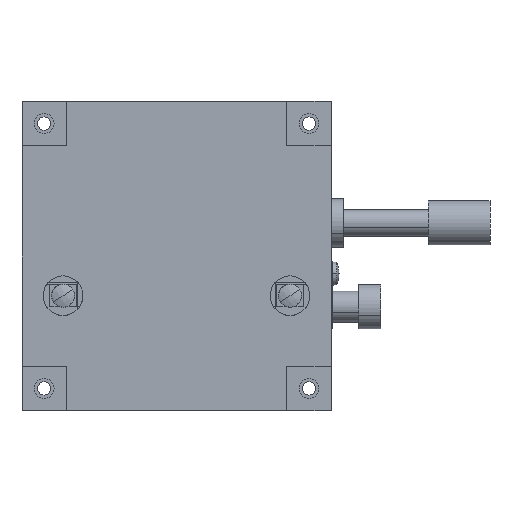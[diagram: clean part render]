
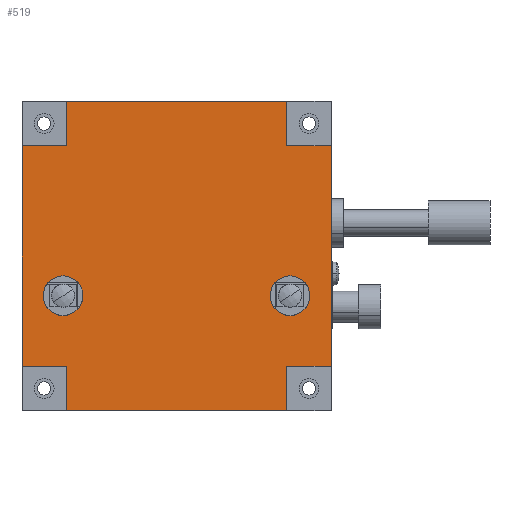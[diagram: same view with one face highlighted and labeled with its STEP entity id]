
A CAD part, front view. The second image highlights one B-rep face of the part: STEP entity #519.
In plain terms, the highlighted planar face has unit normal (0, -1, 0).
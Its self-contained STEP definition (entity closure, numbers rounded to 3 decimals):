
#60 = VERTEX_POINT ( 'NONE', #958 ) ;
#64 = EDGE_CURVE ( 'NONE', #65, #60, #957, .T. ) ;
#65 = VERTEX_POINT ( 'NONE', #1176 ) ;
#363 = EDGE_CURVE ( 'NONE', #3537, #508, #1491, .T. ) ;
#442 = EDGE_CURVE ( 'NONE', #444, #480, #1623, .T. ) ;
#444 = VERTEX_POINT ( 'NONE', #1615 ) ;
#463 = VERTEX_POINT ( 'NONE', #1681 ) ;
#467 = EDGE_CURVE ( 'NONE', #480, #463, #1676, .T. ) ;
#480 = VERTEX_POINT ( 'NONE', #1432 ) ;
#508 = VERTEX_POINT ( 'NONE', #1657 ) ;
#517 = EDGE_CURVE ( 'NONE', #60, #598, #1640, .T. ) ;
#519 = ADVANCED_FACE ( 'NONE', ( #1636, #1635, #1634 ), #1633, .F. ) ;
#520 = EDGE_LOOP ( 'NONE', ( #521, #522 ) ) ;
#521 = ORIENTED_EDGE ( 'NONE', *, *, #3774, .F. ) ;
#522 = ORIENTED_EDGE ( 'NONE', *, *, #7336, .F. ) ;
#523 = EDGE_LOOP ( 'NONE', ( #524, #525, #526, #528, #529, #530, #533, #535, #536, #538, #539, #540 ) ) ;
#524 = ORIENTED_EDGE ( 'NONE', *, *, #442, .T. ) ;
#525 = ORIENTED_EDGE ( 'NONE', *, *, #467, .T. ) ;
#526 = ORIENTED_EDGE ( 'NONE', *, *, #527, .F. ) ;
#527 = EDGE_CURVE ( 'NONE', #65, #463, #1562, .T. ) ;
#528 = ORIENTED_EDGE ( 'NONE', *, *, #64, .T. ) ;
#529 = ORIENTED_EDGE ( 'NONE', *, *, #517, .T. ) ;
#530 = ORIENTED_EDGE ( 'NONE', *, *, #531, .F. ) ;
#531 = EDGE_CURVE ( 'NONE', #532, #598, #1558, .T. ) ;
#532 = VERTEX_POINT ( 'NONE', #1554 ) ;
#533 = ORIENTED_EDGE ( 'NONE', *, *, #534, .T. ) ;
#534 = EDGE_CURVE ( 'NONE', #532, #3516, #1553, .T. ) ;
#535 = ORIENTED_EDGE ( 'NONE', *, *, #3514, .T. ) ;
#536 = ORIENTED_EDGE ( 'NONE', *, *, #537, .F. ) ;
#537 = EDGE_CURVE ( 'NONE', #3542, #3509, #1548, .T. ) ;
#538 = ORIENTED_EDGE ( 'NONE', *, *, #3540, .T. ) ;
#539 = ORIENTED_EDGE ( 'NONE', *, *, #363, .T. ) ;
#540 = ORIENTED_EDGE ( 'NONE', *, *, #542, .F. ) ;
#541 = EDGE_LOOP ( 'NONE', ( #543, #544 ) ) ;
#542 = EDGE_CURVE ( 'NONE', #444, #508, #1887, .T. ) ;
#543 = ORIENTED_EDGE ( 'NONE', *, *, #3584, .F. ) ;
#544 = ORIENTED_EDGE ( 'NONE', *, *, #7318, .F. ) ;
#598 = VERTEX_POINT ( 'NONE', #1816 ) ;
#954 = DIRECTION ( 'NONE',  ( 0., 0., -1. ) ) ;
#955 = VECTOR ( 'NONE', #954, 1000. ) ;
#956 = CARTESIAN_POINT ( 'NONE',  ( -25., 0.5, 35. ) ) ;
#957 = LINE ( 'NONE', #956, #955 ) ;
#958 = CARTESIAN_POINT ( 'NONE',  ( -25., 0.5, 25. ) ) ;
#1176 = CARTESIAN_POINT ( 'NONE',  ( -25., 0.5, 35. ) ) ;
#1432 = CARTESIAN_POINT ( 'NONE',  ( 25., 0.5, 25. ) ) ;
#1488 = DIRECTION ( 'NONE',  ( 1., 0., 0. ) ) ;
#1489 = VECTOR ( 'NONE', #1488, 1000. ) ;
#1490 = CARTESIAN_POINT ( 'NONE',  ( 35., 0.5, -25. ) ) ;
#1491 = LINE ( 'NONE', #1490, #1489 ) ;
#1545 = DIRECTION ( 'NONE',  ( -1., 0., 0. ) ) ;
#1546 = VECTOR ( 'NONE', #1545, 1000. ) ;
#1547 = CARTESIAN_POINT ( 'NONE',  ( 35., 0.5, -35. ) ) ;
#1548 = LINE ( 'NONE', #1547, #1546 ) ;
#1550 = DIRECTION ( 'NONE',  ( 1., 0., 0. ) ) ;
#1551 = VECTOR ( 'NONE', #1550, 1000. ) ;
#1552 = CARTESIAN_POINT ( 'NONE',  ( -35., 0.5, -25. ) ) ;
#1553 = LINE ( 'NONE', #1552, #1551 ) ;
#1554 = CARTESIAN_POINT ( 'NONE',  ( -35., 0.5, -25. ) ) ;
#1555 = DIRECTION ( 'NONE',  ( 0., 0., 1. ) ) ;
#1556 = VECTOR ( 'NONE', #1555, 1000. ) ;
#1557 = CARTESIAN_POINT ( 'NONE',  ( -35., 0.5, 35. ) ) ;
#1558 = LINE ( 'NONE', #1557, #1556 ) ;
#1559 = DIRECTION ( 'NONE',  ( 1., 0., 0. ) ) ;
#1560 = VECTOR ( 'NONE', #1559, 1000. ) ;
#1561 = CARTESIAN_POINT ( 'NONE',  ( 35., 0.5, 35. ) ) ;
#1562 = LINE ( 'NONE', #1561, #1560 ) ;
#1563 = DIRECTION ( 'NONE',  ( 0., 0., -1. ) ) ;
#1564 = DIRECTION ( 'NONE',  ( 0., 1., 0. ) ) ;
#1565 = CARTESIAN_POINT ( 'NONE',  ( 0., 0.5, 0. ) ) ;
#1566 = AXIS2_PLACEMENT_3D ( 'NONE', #1565, #1564, #1563 ) ;
#1615 = CARTESIAN_POINT ( 'NONE',  ( 35., 0.5, 25. ) ) ;
#1620 = DIRECTION ( 'NONE',  ( -1., 0., 0. ) ) ;
#1621 = VECTOR ( 'NONE', #1620, 1000. ) ;
#1622 = CARTESIAN_POINT ( 'NONE',  ( 35., 0.5, 25. ) ) ;
#1623 = LINE ( 'NONE', #1622, #1621 ) ;
#1633 = PLANE ( 'NONE',  #1566 ) ;
#1634 = FACE_BOUND ( 'NONE', #541, .T. ) ;
#1635 = FACE_OUTER_BOUND ( 'NONE', #523, .T. ) ;
#1636 = FACE_BOUND ( 'NONE', #520, .T. ) ;
#1637 = DIRECTION ( 'NONE',  ( -1., 0., 0. ) ) ;
#1638 = VECTOR ( 'NONE', #1637, 1000. ) ;
#1639 = CARTESIAN_POINT ( 'NONE',  ( -35., 0.5, 25. ) ) ;
#1640 = LINE ( 'NONE', #1639, #1638 ) ;
#1657 = CARTESIAN_POINT ( 'NONE',  ( 35., 0.5, -25. ) ) ;
#1673 = DIRECTION ( 'NONE',  ( 0., 0., 1. ) ) ;
#1674 = VECTOR ( 'NONE', #1673, 1000. ) ;
#1675 = CARTESIAN_POINT ( 'NONE',  ( 25., 0.5, 35. ) ) ;
#1676 = LINE ( 'NONE', #1675, #1674 ) ;
#1681 = CARTESIAN_POINT ( 'NONE',  ( 25., 0.5, 35. ) ) ;
#1816 = CARTESIAN_POINT ( 'NONE',  ( -35., 0.5, 25. ) ) ;
#1884 = DIRECTION ( 'NONE',  ( 0., 0., -1. ) ) ;
#1885 = VECTOR ( 'NONE', #1884, 1000. ) ;
#1886 = CARTESIAN_POINT ( 'NONE',  ( 35., 0.5, 35. ) ) ;
#1887 = LINE ( 'NONE', #1886, #1885 ) ;
#2102 = CIRCLE ( 'NONE', #2296, 4.5 ) ;
#2227 = DIRECTION ( 'NONE',  ( 0., 0., -1. ) ) ;
#2228 = DIRECTION ( 'NONE',  ( 0., -1., 0. ) ) ;
#2244 = CARTESIAN_POINT ( 'NONE',  ( 25., 0.5, -35. ) ) ;
#2245 = DIRECTION ( 'NONE',  ( 0., 0., 1. ) ) ;
#2246 = VECTOR ( 'NONE', #2245, 1000. ) ;
#2247 = CARTESIAN_POINT ( 'NONE',  ( 25., 0.5, -35. ) ) ;
#2248 = LINE ( 'NONE', #2247, #2246 ) ;
#2249 = CARTESIAN_POINT ( 'NONE',  ( 25., 0.5, -25. ) ) ;
#2270 = CARTESIAN_POINT ( 'NONE',  ( -25., 0.5, -35. ) ) ;
#2296 = AXIS2_PLACEMENT_3D ( 'NONE', #2581, #2903, #2902 ) ;
#2412 = CARTESIAN_POINT ( 'NONE',  ( -25., 0.5, -25. ) ) ;
#2413 = DIRECTION ( 'NONE',  ( 0., 0., -1. ) ) ;
#2414 = VECTOR ( 'NONE', #2413, 1000. ) ;
#2415 = CARTESIAN_POINT ( 'NONE',  ( -25., 0.5, -35. ) ) ;
#2416 = LINE ( 'NONE', #2415, #2414 ) ;
#2419 = AXIS2_PLACEMENT_3D ( 'NONE', #2424, #2228, #2227 ) ;
#2420 = CIRCLE ( 'NONE', #2419, 4.5 ) ;
#2424 = CARTESIAN_POINT ( 'NONE',  ( -25.7, 0.5, -9. ) ) ;
#2581 = CARTESIAN_POINT ( 'NONE',  ( 25.7, 0.5, -9. ) ) ;
#2902 = DIRECTION ( 'NONE',  ( 0., 0., -1. ) ) ;
#2903 = DIRECTION ( 'NONE',  ( 0., -1., 0. ) ) ;
#3509 = VERTEX_POINT ( 'NONE', #2270 ) ;
#3514 = EDGE_CURVE ( 'NONE', #3516, #3509, #2416, .T. ) ;
#3516 = VERTEX_POINT ( 'NONE', #2412 ) ;
#3537 = VERTEX_POINT ( 'NONE', #2249 ) ;
#3540 = EDGE_CURVE ( 'NONE', #3542, #3537, #2248, .T. ) ;
#3542 = VERTEX_POINT ( 'NONE', #2244 ) ;
#3584 = EDGE_CURVE ( 'NONE', #7319, #7313, #2420, .T. ) ;
#3774 = EDGE_CURVE ( 'NONE', #7338, #7304, #2102, .T. ) ;
#4550 = CARTESIAN_POINT ( 'NONE',  ( -25.7, 0.5, -4.5 ) ) ;
#4551 = DIRECTION ( 'NONE',  ( 0., 0., -1. ) ) ;
#4552 = DIRECTION ( 'NONE',  ( 0., -1., 0. ) ) ;
#4553 = CARTESIAN_POINT ( 'NONE',  ( -25.7, 0.5, -9. ) ) ;
#4554 = AXIS2_PLACEMENT_3D ( 'NONE', #4553, #4552, #4551 ) ;
#4555 = CIRCLE ( 'NONE', #4554, 4.5 ) ;
#4561 = CARTESIAN_POINT ( 'NONE',  ( -25.7, 0.5, -13.5 ) ) ;
#4601 = CARTESIAN_POINT ( 'NONE',  ( 25.7, 0.5, -4.5 ) ) ;
#4699 = DIRECTION ( 'NONE',  ( 0., 0., -1. ) ) ;
#4700 = DIRECTION ( 'NONE',  ( 0., -1., 0. ) ) ;
#4701 = CARTESIAN_POINT ( 'NONE',  ( 25.7, 0.5, -9. ) ) ;
#4702 = AXIS2_PLACEMENT_3D ( 'NONE', #4701, #4700, #4699 ) ;
#4703 = CIRCLE ( 'NONE', #4702, 4.5 ) ;
#4767 = CARTESIAN_POINT ( 'NONE',  ( 25.7, 0.5, -13.5 ) ) ;
#7304 = VERTEX_POINT ( 'NONE', #4767 ) ;
#7313 = VERTEX_POINT ( 'NONE', #4561 ) ;
#7318 = EDGE_CURVE ( 'NONE', #7313, #7319, #4555, .T. ) ;
#7319 = VERTEX_POINT ( 'NONE', #4550 ) ;
#7336 = EDGE_CURVE ( 'NONE', #7304, #7338, #4703, .T. ) ;
#7338 = VERTEX_POINT ( 'NONE', #4601 ) ;
